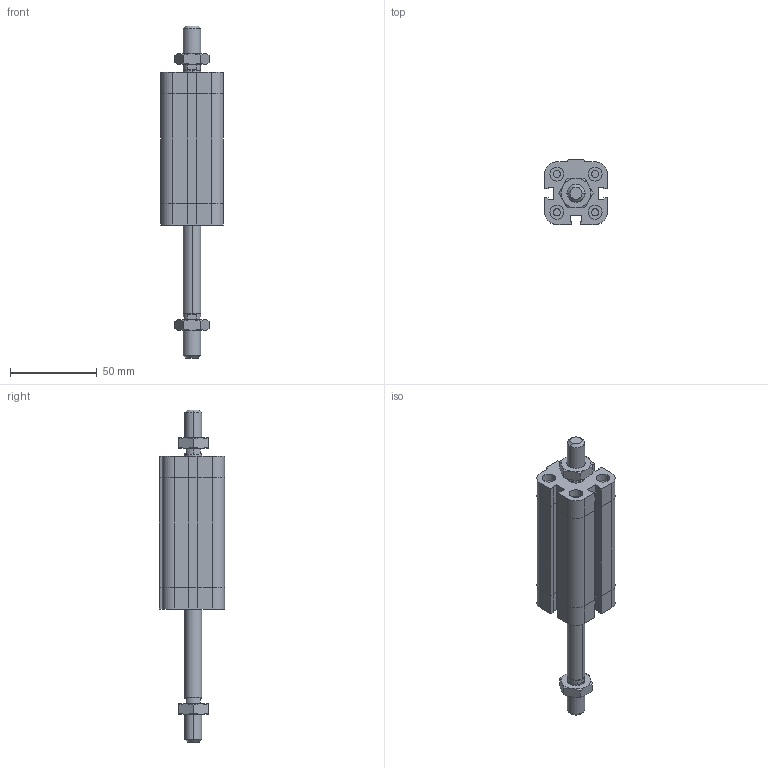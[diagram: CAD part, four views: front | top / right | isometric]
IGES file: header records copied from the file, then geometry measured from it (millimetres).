
Global section: file name: No Iges File Name specified; native system: Autodesk Inventor 2009; preprocessor: AutoDesk Inventor Iges Exporter R2009; author: maffial1; date: 20090420.200847; units: millimetre
Bounding box: 36 x 37.5 x 191 mm (x, y, z)
Volume: 109288.1 mm3; surface area: 30932.2 mm2
Topology: 4 solids, 4 shells, 260 faces, 574 edges, 342 vertices
Faces by surface type: plane 129, bspline 51, cone 38, cylinder 22, revolution 20
